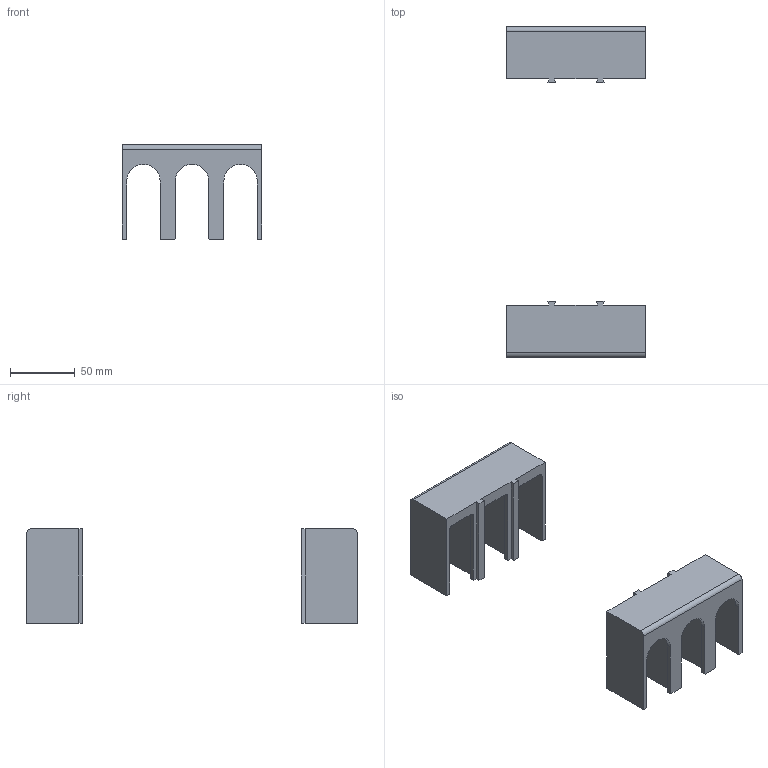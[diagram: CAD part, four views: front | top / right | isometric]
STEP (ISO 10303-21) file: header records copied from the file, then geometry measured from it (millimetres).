
FILE_DESCRIPTION (( 'STEP AP214' ), '1' );
FILE_NAME ('ÂÀ04-36 Êðûøêà êëåììíàÿ.STEP', '2023-07-14T07:32:28', ( '' ), ( '' ), 'SwSTEP 2.0', 'SolidWorks 2018', '' );
FILE_SCHEMA (( 'AUTOMOTIVE_DESIGN' ));
Length unit declared in the file: millimetre
Products named in the file (1): ÂÀ04-36 Êðûøêà êëåììíàÿ
Bounding box: 107.53 x 255.4 x 72.87 mm (x, y, z)
Volume: 136048.8 mm3; surface area: 84193.8 mm2
Topology: 2 solids, 2 shells, 122 faces, 354 edges, 236 vertices
Faces by surface type: plane 102, cylinder 20
Entity records: 5363 total; most frequent: CARTESIAN_POINT 713, ORIENTED_EDGE 708, DIRECTION 640, EDGE_CURVE 354, LINE 314, VECTOR 314, VERTEX_POINT 236, AXIS2_PLACEMENT_3D 163
